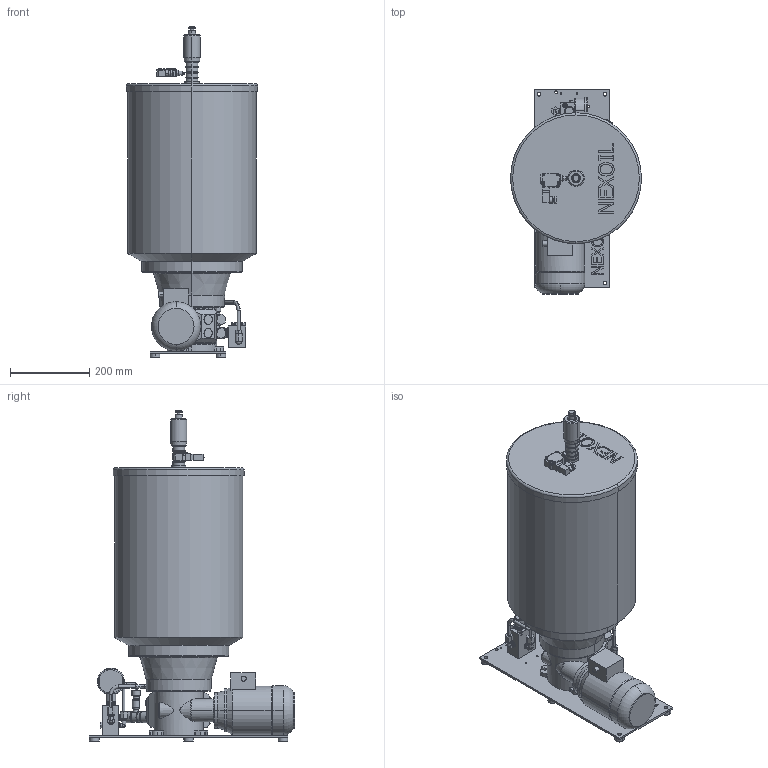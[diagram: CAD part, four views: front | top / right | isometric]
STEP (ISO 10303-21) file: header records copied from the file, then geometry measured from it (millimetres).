
FILE_DESCRIPTION((''),'2;1');
FILE_NAME('FM1_30KG.stp','2017-06-05T14:44:44',(''),(''),'Mechanical Desktop 2008','Mechanical Desktop 2008',', , ');
FILE_SCHEMA(('AUTOMOTIVE_DESIGN { 1 2 10303 214 1 1 1 1 }'));
Length unit declared in the file: millimetre
Products named in the file (23): 6015071; PART1AA; 7050013; PART1; 9083005; PART1AAA; 8289009; PART2A; 8128004; PART1A; 8289010; PART3; PART2; ~~~PART1; ~~PART2; ~~(SHEETMETAL) TAPPING SCREW - ISO 7049 - ST 2.9 X 6.5 - C - H; ~PART1; ~~~~~~PART1; ~~~~~PART1; ~~~~PART1; ~~~~~~~PART1; ~~~~~~~~PART1; PART4
Assembly tree (24 placements, depth 3):
  6015071
    PART1AA
    7050013
      PART1
    9083005
      PART1AAA
    8289009
      PART2A
    8128004
      PART1A
    8289010  x3
      PART3
    PART2
    ~~~PART1
    ~~PART2
    ~~(SHEETMETAL) TAPPING SCREW - ISO 7049 - ST 2.9 X 6.5 - C - H
    ~PART1
    ~~~~~~PART1
    ~~~~~PART1
    ~~~~PART1
    ~~~~~~~PART1
    ~~~~~~~~PART1
    PART4
Bounding box: 330.5 x 517 x 833.72 mm (x, y, z)
Volume: 44726473.8 mm3; surface area: 1258269 mm2
Topology: 24 solids, 24 shells, 1401 faces, 3450 edges, 2210 vertices
Faces by surface type: plane 652, cylinder 397, cone 168, bspline 136, torus 39, sphere 9
Full cylindrical faces by diameter (mm): 26.533 x1
Entity records: 42410 total; most frequent: CARTESIAN_POINT 9968, DIRECTION 6681, ORIENTED_EDGE 6628, EDGE_CURVE 3314, AXIS2_PLACEMENT_3D 2399, VERTEX_POINT 2129, VECTOR 1883, LINE 1883
